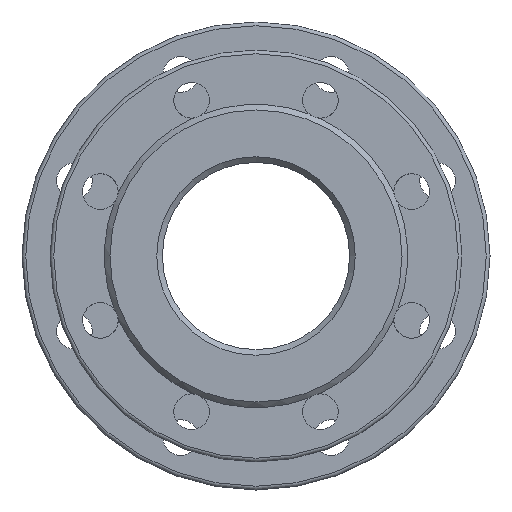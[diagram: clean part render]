
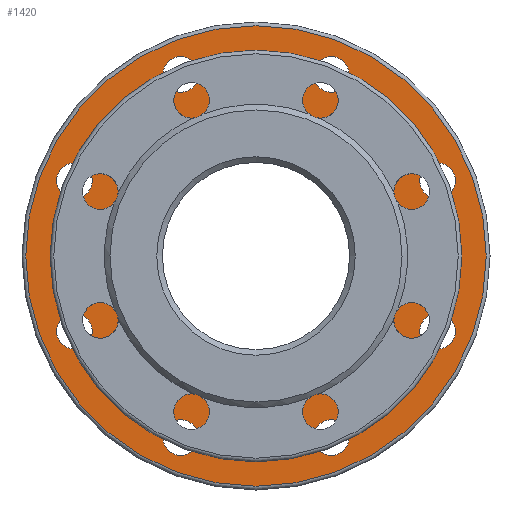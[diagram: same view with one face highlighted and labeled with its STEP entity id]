
A CAD part, left-side view. The second image highlights one B-rep face of the part: STEP entity #1420.
In plain terms, the highlighted planar face has unit normal (-1, 0, 0).
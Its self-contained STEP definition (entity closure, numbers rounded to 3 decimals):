
#20 = CIRCLE ( 'NONE', #67, 123. ) ;
#55 = AXIS2_PLACEMENT_3D ( 'NONE', #2476, #2679, #2273 ) ;
#67 = AXIS2_PLACEMENT_3D ( 'NONE', #2710, #2526, #2741 ) ;
#89 = EDGE_CURVE ( 'NONE', #140, #140, #106, .T. ) ;
#106 = CIRCLE ( 'NONE', #949, 80.497 ) ;
#128 = CARTESIAN_POINT ( 'NONE',  ( 181., 0., 0. ) ) ;
#139 = ORIENTED_EDGE ( 'NONE', *, *, #403, .F. ) ;
#140 = VERTEX_POINT ( 'NONE', #1849 ) ;
#147 = FACE_BOUND ( 'NONE', #2055, .T. ) ;
#175 = EDGE_LOOP ( 'NONE', ( #1020 ) ) ;
#182 = CARTESIAN_POINT ( 'NONE',  ( 181., 76.66, 0. ) ) ;
#188 = AXIS2_PLACEMENT_3D ( 'NONE', #1910, #1028, #215 ) ;
#194 = VERTEX_POINT ( 'NONE', #1232 ) ;
#195 = EDGE_CURVE ( 'NONE', #1617, #1617, #672, .T. ) ;
#211 = CARTESIAN_POINT ( 'NONE',  ( 181., 0., -123. ) ) ;
#215 = DIRECTION ( 'NONE',  ( 0., 0., -1. ) ) ;
#229 = EDGE_CURVE ( 'NONE', #2649, #2649, #1477, .T. ) ;
#267 = EDGE_LOOP ( 'NONE', ( #139 ) ) ;
#297 = ORIENTED_EDGE ( 'NONE', *, *, #1783, .F. ) ;
#385 = DIRECTION ( 'NONE',  ( 0., 0., -1. ) ) ;
#403 = EDGE_CURVE ( 'NONE', #1424, #1424, #952, .T. ) ;
#411 = DIRECTION ( 'NONE',  ( 1., 0., 0. ) ) ;
#415 = DIRECTION ( 'NONE',  ( 0., 0., -1. ) ) ;
#428 = DIRECTION ( 'NONE',  ( 0., 0., -1. ) ) ;
#525 = EDGE_CURVE ( 'NONE', #946, #946, #558, .T. ) ;
#526 = VERTEX_POINT ( 'NONE', #2226 ) ;
#558 = CIRCLE ( 'NONE', #2420, 9.5 ) ;
#566 = CARTESIAN_POINT ( 'NONE',  ( 181., -40.182, -106.507 ) ) ;
#569 = FACE_BOUND ( 'NONE', #1453, .T. ) ;
#579 = DIRECTION ( 'NONE',  ( 0., 0., -1. ) ) ;
#640 = AXIS2_PLACEMENT_3D ( 'NONE', #2409, #2630, #2184 ) ;
#672 = CIRCLE ( 'NONE', #1400, 9.5 ) ;
#693 = CARTESIAN_POINT ( 'NONE',  ( 181., 40.182, 97.007 ) ) ;
#746 = EDGE_LOOP ( 'NONE', ( #297 ) ) ;
#785 = CARTESIAN_POINT ( 'NONE',  ( 181., -97.007, -40.182 ) ) ;
#815 = EDGE_LOOP ( 'NONE', ( #2525 ) ) ;
#816 = PLANE ( 'NONE',  #1076 ) ;
#907 = CIRCLE ( 'NONE', #640, 9.5 ) ;
#946 = VERTEX_POINT ( 'NONE', #1812 ) ;
#949 = AXIS2_PLACEMENT_3D ( 'NONE', #128, #2717, #385 ) ;
#952 = CIRCLE ( 'NONE', #55, 9.5 ) ;
#961 = CIRCLE ( 'NONE', #2735, 9.5 ) ;
#970 = ORIENTED_EDGE ( 'NONE', *, *, #1837, .F. ) ;
#998 = CIRCLE ( 'NONE', #2552, 9.5 ) ;
#1006 = FACE_BOUND ( 'NONE', #815, .T. ) ;
#1011 = DIRECTION ( 'NONE',  ( -1., 0., 0. ) ) ;
#1012 = CARTESIAN_POINT ( 'NONE',  ( 181., -40.182, 87.507 ) ) ;
#1020 = ORIENTED_EDGE ( 'NONE', *, *, #229, .F. ) ;
#1026 = FACE_BOUND ( 'NONE', #175, .T. ) ;
#1028 = DIRECTION ( 'NONE',  ( -1., 0., 0. ) ) ;
#1076 = AXIS2_PLACEMENT_3D ( 'NONE', #182, #411, #579 ) ;
#1102 = DIRECTION ( 'NONE',  ( -1., 0., 0. ) ) ;
#1185 = CARTESIAN_POINT ( 'NONE',  ( 181., 97.007, -49.682 ) ) ;
#1232 = CARTESIAN_POINT ( 'NONE',  ( 181., 40.182, -106.507 ) ) ;
#1235 = FACE_BOUND ( 'NONE', #267, .T. ) ;
#1240 = EDGE_LOOP ( 'NONE', ( #1585 ) ) ;
#1267 = CARTESIAN_POINT ( 'NONE',  ( 181., -40.182, -97.007 ) ) ;
#1400 = AXIS2_PLACEMENT_3D ( 'NONE', #1267, #2548, #428 ) ;
#1420 = ADVANCED_FACE ( 'NONE', ( #1846, #569, #1235, #2477, #147, #1878, #1026, #2101, #2695, #1006 ), #816, .F. ) ;
#1424 = VERTEX_POINT ( 'NONE', #1185 ) ;
#1434 = DIRECTION ( 'NONE',  ( -1., 0., 0. ) ) ;
#1453 = EDGE_LOOP ( 'NONE', ( #2672 ) ) ;
#1477 = CIRCLE ( 'NONE', #188, 9.5 ) ;
#1585 = ORIENTED_EDGE ( 'NONE', *, *, #195, .F. ) ;
#1617 = VERTEX_POINT ( 'NONE', #566 ) ;
#1647 = CARTESIAN_POINT ( 'NONE',  ( 181., -40.182, 97.007 ) ) ;
#1649 = CARTESIAN_POINT ( 'NONE',  ( 181., 40.182, -97.007 ) ) ;
#1697 = ORIENTED_EDGE ( 'NONE', *, *, #2375, .F. ) ;
#1783 = EDGE_CURVE ( 'NONE', #2002, #2002, #907, .T. ) ;
#1812 = CARTESIAN_POINT ( 'NONE',  ( 181., -97.007, -49.682 ) ) ;
#1837 = EDGE_CURVE ( 'NONE', #526, #526, #961, .T. ) ;
#1843 = CARTESIAN_POINT ( 'NONE',  ( 181., -97.007, 30.682 ) ) ;
#1846 = FACE_OUTER_BOUND ( 'NONE', #2168, .T. ) ;
#1849 = CARTESIAN_POINT ( 'NONE',  ( 181., 0., -80.497 ) ) ;
#1878 = FACE_BOUND ( 'NONE', #2395, .T. ) ;
#1905 = AXIS2_PLACEMENT_3D ( 'NONE', #1647, #2106, #415 ) ;
#1910 = CARTESIAN_POINT ( 'NONE',  ( 181., -97.007, 40.182 ) ) ;
#1969 = DIRECTION ( 'NONE',  ( 0., 0., -1. ) ) ;
#1973 = EDGE_CURVE ( 'NONE', #194, #194, #998, .T. ) ;
#2002 = VERTEX_POINT ( 'NONE', #2631 ) ;
#2055 = EDGE_LOOP ( 'NONE', ( #970 ) ) ;
#2101 = FACE_BOUND ( 'NONE', #2234, .T. ) ;
#2106 = DIRECTION ( 'NONE',  ( -1., 0., 0. ) ) ;
#2168 = EDGE_LOOP ( 'NONE', ( #2464 ) ) ;
#2184 = DIRECTION ( 'NONE',  ( 0., 0., -1. ) ) ;
#2226 = CARTESIAN_POINT ( 'NONE',  ( 181., 40.182, 87.507 ) ) ;
#2234 = EDGE_LOOP ( 'NONE', ( #2422 ) ) ;
#2262 = CIRCLE ( 'NONE', #1905, 9.5 ) ;
#2273 = DIRECTION ( 'NONE',  ( 0., 0., -1. ) ) ;
#2294 = DIRECTION ( 'NONE',  ( 0., 0., -1. ) ) ;
#2307 = DIRECTION ( 'NONE',  ( 0., 0., -1. ) ) ;
#2319 = VERTEX_POINT ( 'NONE', #1012 ) ;
#2326 = EDGE_CURVE ( 'NONE', #2730, #2730, #20, .T. ) ;
#2375 = EDGE_CURVE ( 'NONE', #2319, #2319, #2262, .T. ) ;
#2395 = EDGE_LOOP ( 'NONE', ( #1697 ) ) ;
#2409 = CARTESIAN_POINT ( 'NONE',  ( 181., 97.007, 40.182 ) ) ;
#2420 = AXIS2_PLACEMENT_3D ( 'NONE', #785, #1434, #2294 ) ;
#2422 = ORIENTED_EDGE ( 'NONE', *, *, #525, .F. ) ;
#2464 = ORIENTED_EDGE ( 'NONE', *, *, #2326, .T. ) ;
#2476 = CARTESIAN_POINT ( 'NONE',  ( 181., 97.007, -40.182 ) ) ;
#2477 = FACE_BOUND ( 'NONE', #746, .T. ) ;
#2525 = ORIENTED_EDGE ( 'NONE', *, *, #1973, .F. ) ;
#2526 = DIRECTION ( 'NONE',  ( -1., 0., 0. ) ) ;
#2548 = DIRECTION ( 'NONE',  ( -1., 0., 0. ) ) ;
#2552 = AXIS2_PLACEMENT_3D ( 'NONE', #1649, #1011, #2307 ) ;
#2630 = DIRECTION ( 'NONE',  ( -1., 0., 0. ) ) ;
#2631 = CARTESIAN_POINT ( 'NONE',  ( 181., 97.007, 30.682 ) ) ;
#2649 = VERTEX_POINT ( 'NONE', #1843 ) ;
#2672 = ORIENTED_EDGE ( 'NONE', *, *, #89, .T. ) ;
#2679 = DIRECTION ( 'NONE',  ( -1., 0., 0. ) ) ;
#2695 = FACE_BOUND ( 'NONE', #1240, .T. ) ;
#2710 = CARTESIAN_POINT ( 'NONE',  ( 181., 0., 0. ) ) ;
#2717 = DIRECTION ( 'NONE',  ( 1., 0., 0. ) ) ;
#2730 = VERTEX_POINT ( 'NONE', #211 ) ;
#2735 = AXIS2_PLACEMENT_3D ( 'NONE', #693, #1102, #1969 ) ;
#2741 = DIRECTION ( 'NONE',  ( 0., 0., -1. ) ) ;
